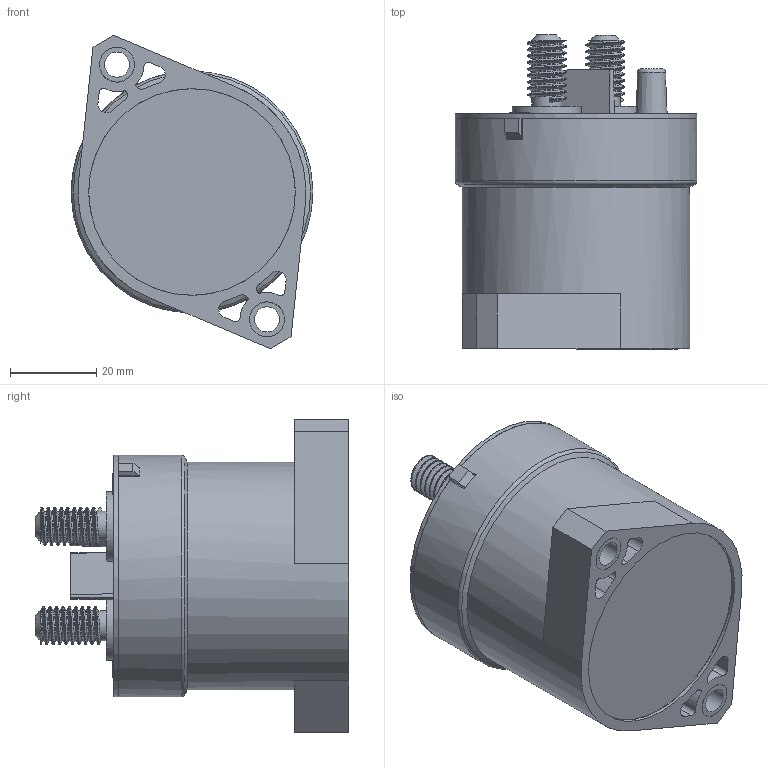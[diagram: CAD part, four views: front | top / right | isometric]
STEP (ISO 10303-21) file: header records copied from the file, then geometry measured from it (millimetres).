
FILE_DESCRIPTION( ( '' ), ' ' );
FILE_NAME( '/vol/tmp/translate-12741563574408034068/5edd69dde470dc13817c3400.step', '2020-06-07T22:27:41', ( '' ), ( '' ), ' ', ' ', ' ' );
FILE_SCHEMA( ( 'AUTOMOTIVE_DESIGN { 1 0 10303 214 1 1 1 1 }' ) );
Length unit declared in the file: metre
Products named in the file (7): Assem1; 1; 2; 5; 6; 4; 3
Assembly tree (8 placements, depth 2):
  Assem1
    1  x2
    2
    5
    6
    4  x2
    3
Bounding box: 56 x 72.71 x 72.68 mm (x, y, z)
Volume: 35324.7 mm3; surface area: 40414.5 mm2
Topology: 8 solids, 8 shells, 1113 faces, 3219 edges, 2158 vertices
Faces by surface type: plane 757, cylinder 309, cone 16, torus 14, bspline 10, extrusion 7
Full cylindrical faces by diameter (mm): 2.5 x2, 2.92 x1, 4.8 x1, 5.79 x2, 7 x16, 7.87 x2, 8.05 x4, 8.1 x2, 8.18 x2, 10.92 x2, 12.7 x2, 15.16 x2, 15.88 x2, 16.05 x2, 16.51 x2, 47.9 x1, 50.82 x1, 52.8 x1, 54 x1, 56 x2
Entity records: 24707 total; most frequent: CARTESIAN_POINT 7052, DIRECTION 3708, ORIENTED_EDGE 3674, EDGE_CURVE 1837, AXIS2_PLACEMENT_3D 1272, VERTEX_POINT 1260, VECTOR 1164, LINE 1157
